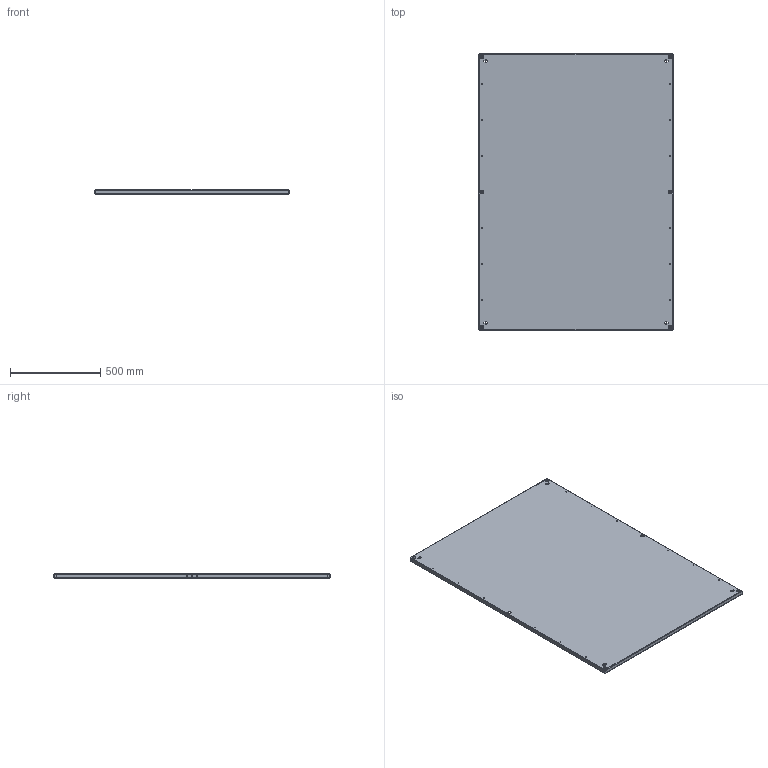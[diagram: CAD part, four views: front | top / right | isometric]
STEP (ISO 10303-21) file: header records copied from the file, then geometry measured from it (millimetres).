
FILE_DESCRIPTION(('STEP AP203'), '1');
FILE_NAME('Ïàíåëü ìîíòàæíàÿ Â1600õØ1200 ìì OptiBox M 421772 ÊÝÀÇ', '', ('UNSPECIFIED'), ('UNSPECIFIED'), 'C3D Converter', 'C3D Toolkit', '');
FILE_SCHEMA(('CONFIG_CONTROL_DESIGN'));
Length unit declared in the file: millimetre
Bounding box: 1078 x 1533 x 25 mm (x, y, z)
Volume: 3688890 mm3; surface area: 3702125.3 mm2
Topology: 1 solids, 1 shells, 128 faces, 314 edges, 188 vertices
Faces by surface type: cylinder 58, plane 54, bspline 16
Full cylindrical faces by diameter (mm): 4.6 x24, 7.3 x2, 9 x6, 18 x6
Entity records: 6032 total; most frequent: CARTESIAN_POINT 3037, ORIENTED_EDGE 552, DIRECTION 550, EDGE_CURVE 276, EDGE_LOOP 250, AXIS2_PLACEMENT_3D 197, VERTEX_POINT 188, FACE_BOUND 174
